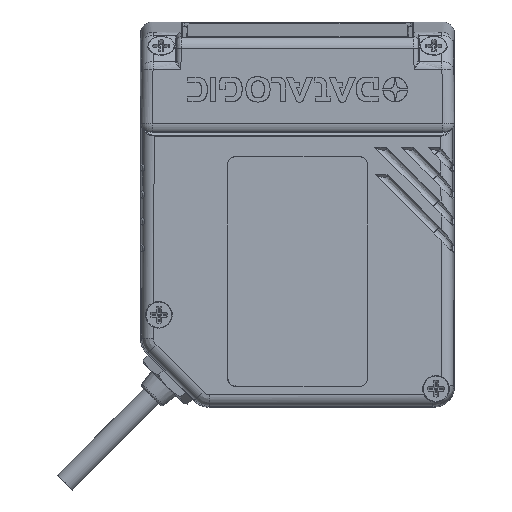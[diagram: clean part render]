
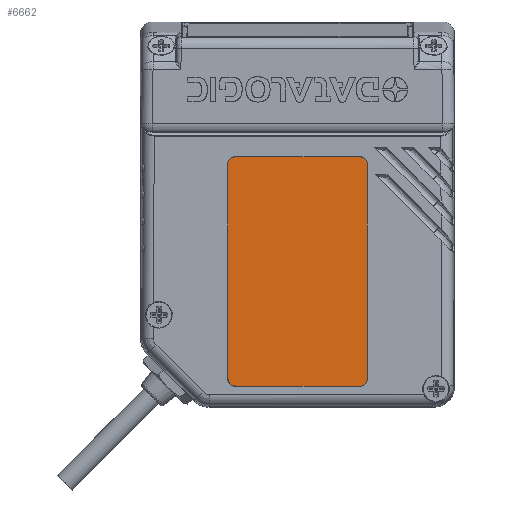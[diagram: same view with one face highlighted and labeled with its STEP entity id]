
A CAD part, top view. The second image highlights one B-rep face of the part: STEP entity #6662.
In plain terms, the highlighted planar face has unit normal (0, 0, 1).
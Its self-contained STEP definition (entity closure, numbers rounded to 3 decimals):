
#2830=CIRCLE('',#73324,1.5);
#2831=CIRCLE('',#73325,1.5);
#2832=CIRCLE('',#73326,1.5);
#2833=CIRCLE('',#73327,1.5);
#6662=ADVANCED_FACE('',(#13094),#9637,.T.);
#9637=PLANE('',#73328);
#13094=FACE_OUTER_BOUND('',#17139,.T.);
#17139=EDGE_LOOP('',(#45590,#45591,#45592,#45593,#45594,#45595,#45596,#45597));
#23107=LINE('',#117927,#28746);
#23108=LINE('',#117931,#28747);
#23109=LINE('',#117935,#28748);
#23110=LINE('',#117939,#28749);
#28746=VECTOR('',#86240,1.);
#28747=VECTOR('',#86243,1.);
#28748=VECTOR('',#86246,1.);
#28749=VECTOR('',#86249,1.);
#45590=ORIENTED_EDGE('',*,*,#64411,.T.);
#45591=ORIENTED_EDGE('',*,*,#64412,.T.);
#45592=ORIENTED_EDGE('',*,*,#64413,.T.);
#45593=ORIENTED_EDGE('',*,*,#64414,.T.);
#45594=ORIENTED_EDGE('',*,*,#64415,.T.);
#45595=ORIENTED_EDGE('',*,*,#64416,.T.);
#45596=ORIENTED_EDGE('',*,*,#64417,.T.);
#45597=ORIENTED_EDGE('',*,*,#64418,.T.);
#54979=VERTEX_POINT('',#117925);
#54980=VERTEX_POINT('',#117926);
#54981=VERTEX_POINT('',#117928);
#54982=VERTEX_POINT('',#117930);
#54983=VERTEX_POINT('',#117932);
#54984=VERTEX_POINT('',#117934);
#54985=VERTEX_POINT('',#117936);
#54986=VERTEX_POINT('',#117938);
#64411=EDGE_CURVE('',#54979,#54980,#2830,.T.);
#64412=EDGE_CURVE('',#54980,#54981,#23107,.T.);
#64413=EDGE_CURVE('',#54981,#54982,#2831,.T.);
#64414=EDGE_CURVE('',#54982,#54983,#23108,.T.);
#64415=EDGE_CURVE('',#54983,#54984,#2832,.T.);
#64416=EDGE_CURVE('',#54984,#54985,#23109,.T.);
#64417=EDGE_CURVE('',#54985,#54986,#2833,.T.);
#64418=EDGE_CURVE('',#54986,#54979,#23110,.T.);
#73324=AXIS2_PLACEMENT_3D('',#117924,#86238,#86239);
#73325=AXIS2_PLACEMENT_3D('',#117929,#86241,#86242);
#73326=AXIS2_PLACEMENT_3D('',#117933,#86244,#86245);
#73327=AXIS2_PLACEMENT_3D('',#117937,#86247,#86248);
#73328=AXIS2_PLACEMENT_3D('',#117940,#86250,#86251);
#86238=DIRECTION('',(0.,0.,1.));
#86239=DIRECTION('',(1.,0.,0.));
#86240=DIRECTION('',(1.,0.,0.));
#86241=DIRECTION('',(0.,0.,1.));
#86242=DIRECTION('',(1.,0.,0.));
#86243=DIRECTION('',(0.,1.,0.));
#86244=DIRECTION('',(0.,0.,1.));
#86245=DIRECTION('',(1.,0.,0.));
#86246=DIRECTION('',(-1.,0.,0.));
#86247=DIRECTION('',(0.,0.,1.));
#86248=DIRECTION('',(1.,0.,0.));
#86249=DIRECTION('',(0.,-1.,0.));
#86250=DIRECTION('',(0.,0.,1.));
#86251=DIRECTION('',(-1.,0.,0.));
#117924=CARTESIAN_POINT('',(-19.746,-43.52,32.393));
#117925=CARTESIAN_POINT('',(-21.246,-43.52,32.393));
#117926=CARTESIAN_POINT('',(-19.746,-45.02,32.393));
#117927=CARTESIAN_POINT('',(-6.146,-45.02,32.393));
#117928=CARTESIAN_POINT('',(7.454,-45.02,32.393));
#117929=CARTESIAN_POINT('',(7.454,-43.52,32.393));
#117930=CARTESIAN_POINT('',(8.954,-43.52,32.393));
#117931=CARTESIAN_POINT('',(8.954,-20.17,32.393));
#117932=CARTESIAN_POINT('',(8.954,3.18,32.393));
#117933=CARTESIAN_POINT('',(7.454,3.18,32.393));
#117934=CARTESIAN_POINT('',(7.454,4.68,32.393));
#117935=CARTESIAN_POINT('',(-6.146,4.68,32.393));
#117936=CARTESIAN_POINT('',(-19.746,4.68,32.393));
#117937=CARTESIAN_POINT('',(-19.746,3.18,32.393));
#117938=CARTESIAN_POINT('',(-21.246,3.18,32.393));
#117939=CARTESIAN_POINT('',(-21.246,-20.17,32.393));
#117940=CARTESIAN_POINT('',(10.464,7.165,32.393));
